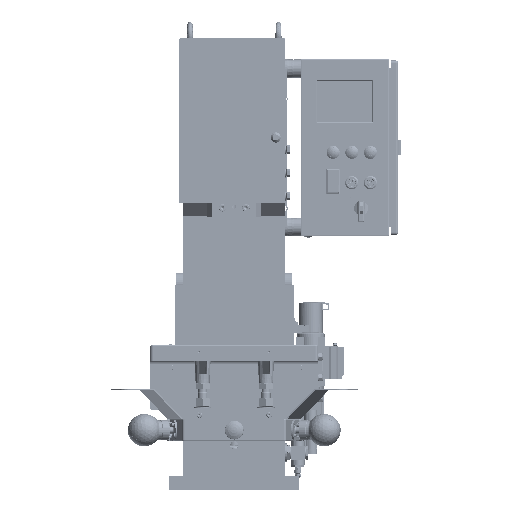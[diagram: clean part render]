
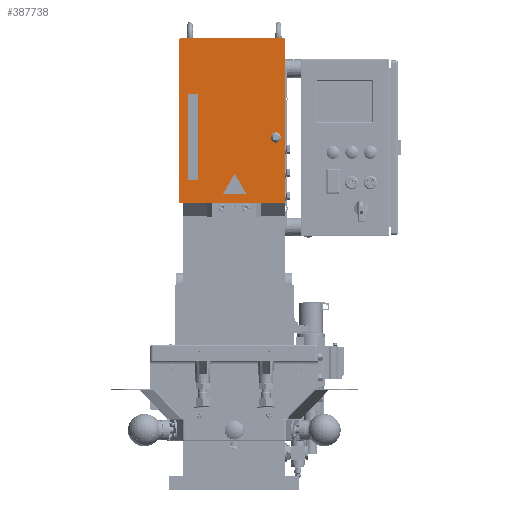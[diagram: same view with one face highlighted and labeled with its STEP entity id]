
A CAD part, front view. The second image highlights one B-rep face of the part: STEP entity #387738.
In plain terms, the highlighted planar face has unit normal (0, -1, 0).
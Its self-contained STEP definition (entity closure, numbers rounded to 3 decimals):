
#27736=FACE_BOUND('',#80938,.T.);
#27737=FACE_BOUND('',#80939,.T.);
#27738=FACE_BOUND('',#80940,.T.);
#42228=PLANE('',#407278);
#59863=FACE_OUTER_BOUND('',#80937,.T.);
#80937=EDGE_LOOP('',(#302165,#302166,#302167,#302168,#302169,#302170,#302171,
#302172));
#80938=EDGE_LOOP('',(#302173,#302174,#302175,#302176));
#80939=EDGE_LOOP('',(#302177,#302178,#302179,#302180,#302181,#302182));
#80940=EDGE_LOOP('',(#302183));
#97640=LINE('',#518862,#132199);
#98022=LINE('',#521600,#132581);
#98025=LINE('',#521605,#132584);
#99003=LINE('',#526745,#133562);
#99004=LINE('',#526747,#133563);
#99007=LINE('',#526760,#133566);
#99011=LINE('',#526772,#133570);
#99016=LINE('',#526784,#133575);
#107181=LINE('',#581148,#141740);
#107827=LINE('',#585347,#142386);
#107829=LINE('',#585356,#142388);
#132199=VECTOR('',#430446,10.);
#132581=VECTOR('',#431050,10.);
#132584=VECTOR('',#431055,10.);
#133562=VECTOR('',#432655,10.);
#133563=VECTOR('',#432658,10.);
#133566=VECTOR('',#432671,10.);
#133570=VECTOR('',#432683,10.);
#133575=VECTOR('',#432696,10.);
#141740=VECTOR('',#445883,10.);
#142386=VECTOR('',#448575,10.);
#142388=VECTOR('',#448585,10.);
#166656=CIRCLE('',#403297,4.);
#166659=CIRCLE('',#403301,4.);
#166661=CIRCLE('',#403731,1.);
#166663=CIRCLE('',#403735,1.);
#166665=CIRCLE('',#403739,1.);
#167070=CIRCLE('',#406826,11.);
#167266=CIRCLE('',#407277,4.);
#167267=CIRCLE('',#407279,4.);
#176815=VERTEX_POINT('',#518837);
#176816=VERTEX_POINT('',#518838);
#176819=VERTEX_POINT('',#518847);
#176820=VERTEX_POINT('',#518848);
#176824=VERTEX_POINT('',#518861);
#177244=VERTEX_POINT('',#521597);
#177245=VERTEX_POINT('',#521599);
#177246=VERTEX_POINT('',#521603);
#178149=VERTEX_POINT('',#526743);
#178152=VERTEX_POINT('',#526753);
#178153=VERTEX_POINT('',#526755);
#178154=VERTEX_POINT('',#526759);
#178157=VERTEX_POINT('',#526767);
#178158=VERTEX_POINT('',#526771);
#178161=VERTEX_POINT('',#526779);
#187232=VERTEX_POINT('',#583649);
#187655=VERTEX_POINT('',#585345);
#187657=VERTEX_POINT('',#585351);
#187658=VERTEX_POINT('',#585355);
#213965=EDGE_CURVE('',#176815,#176816,#166656,.T.);
#213970=EDGE_CURVE('',#176819,#176820,#166659,.T.);
#213977=EDGE_CURVE('',#176824,#176819,#97640,.T.);
#214605=EDGE_CURVE('',#177245,#177244,#98022,.T.);
#214608=EDGE_CURVE('',#177244,#177246,#98025,.T.);
#215965=EDGE_CURVE('',#177246,#178149,#99003,.T.);
#215966=EDGE_CURVE('',#178149,#177245,#99004,.T.);
#215969=EDGE_CURVE('',#178153,#178152,#166661,.T.);
#215971=EDGE_CURVE('',#178154,#178153,#99007,.T.);
#215975=EDGE_CURVE('',#178157,#178154,#166663,.T.);
#215977=EDGE_CURVE('',#178158,#178157,#99011,.T.);
#215981=EDGE_CURVE('',#178161,#178158,#166665,.T.);
#215984=EDGE_CURVE('',#178152,#178161,#99016,.T.);
#228805=EDGE_CURVE('',#176820,#176815,#107181,.T.);
#229534=EDGE_CURVE('',#187232,#187232,#167070,.T.);
#230189=EDGE_CURVE('',#176816,#187655,#107827,.T.);
#230192=EDGE_CURVE('',#187657,#187655,#167266,.T.);
#230193=EDGE_CURVE('',#187657,#187658,#107829,.T.);
#230194=EDGE_CURVE('',#176824,#187658,#167267,.T.);
#302165=ORIENTED_EDGE('',*,*,#213965,.T.);
#302166=ORIENTED_EDGE('',*,*,#230189,.T.);
#302167=ORIENTED_EDGE('',*,*,#230192,.F.);
#302168=ORIENTED_EDGE('',*,*,#230193,.T.);
#302169=ORIENTED_EDGE('',*,*,#230194,.F.);
#302170=ORIENTED_EDGE('',*,*,#213977,.T.);
#302171=ORIENTED_EDGE('',*,*,#213970,.T.);
#302172=ORIENTED_EDGE('',*,*,#228805,.T.);
#302173=ORIENTED_EDGE('',*,*,#214605,.T.);
#302174=ORIENTED_EDGE('',*,*,#214608,.T.);
#302175=ORIENTED_EDGE('',*,*,#215965,.T.);
#302176=ORIENTED_EDGE('',*,*,#215966,.T.);
#302177=ORIENTED_EDGE('',*,*,#215969,.T.);
#302178=ORIENTED_EDGE('',*,*,#215984,.T.);
#302179=ORIENTED_EDGE('',*,*,#215981,.T.);
#302180=ORIENTED_EDGE('',*,*,#215977,.T.);
#302181=ORIENTED_EDGE('',*,*,#215975,.T.);
#302182=ORIENTED_EDGE('',*,*,#215971,.T.);
#302183=ORIENTED_EDGE('',*,*,#229534,.T.);
#387738=ADVANCED_FACE('',(#59863,#27736,#27737,#27738),#42228,.T.);
#403297=AXIS2_PLACEMENT_3D('',#518839,#430424,#430425);
#403301=AXIS2_PLACEMENT_3D('',#518849,#430434,#430435);
#403731=AXIS2_PLACEMENT_3D('',#526756,#432666,#432667);
#403735=AXIS2_PLACEMENT_3D('',#526768,#432678,#432679);
#403739=AXIS2_PLACEMENT_3D('',#526780,#432690,#432691);
#406826=AXIS2_PLACEMENT_3D('',#583651,#447301,#447302);
#407277=AXIS2_PLACEMENT_3D('',#585353,#448581,#448582);
#407278=AXIS2_PLACEMENT_3D('',#585354,#448583,#448584);
#407279=AXIS2_PLACEMENT_3D('',#585357,#448586,#448587);
#430424=DIRECTION('center_axis',(0.,-1.,0.));
#430425=DIRECTION('ref_axis',(-1.,0.,0.));
#430434=DIRECTION('center_axis',(0.,-1.,0.));
#430435=DIRECTION('ref_axis',(-1.,0.,0.));
#430446=DIRECTION('',(1.,0.,0.));
#431050=DIRECTION('',(0.,0.,1.));
#431055=DIRECTION('',(1.,0.,0.));
#432655=DIRECTION('',(0.,0.,-1.));
#432658=DIRECTION('',(-1.,0.,0.));
#432666=DIRECTION('center_axis',(0.,1.,0.));
#432667=DIRECTION('ref_axis',(-0.866,0.,-0.5));
#432671=DIRECTION('',(-1.,0.,0.));
#432678=DIRECTION('center_axis',(0.,1.,0.));
#432679=DIRECTION('ref_axis',(0.866,0.,-0.5));
#432683=DIRECTION('',(0.5,0.,-0.866));
#432690=DIRECTION('center_axis',(0.,1.,0.));
#432691=DIRECTION('ref_axis',(0.,0.,
1.));
#432696=DIRECTION('',(0.5,0.,0.866));
#445883=DIRECTION('',(0.,0.,1.));
#447301=DIRECTION('center_axis',(0.,1.,0.));
#447302=DIRECTION('ref_axis',(-1.,0.,0.));
#448575=DIRECTION('',(-1.,0.,0.));
#448581=DIRECTION('center_axis',(0.,1.,0.));
#448582=DIRECTION('ref_axis',(-0.707,0.,0.707));
#448583=DIRECTION('center_axis',(0.,-1.,0.));
#448584=DIRECTION('ref_axis',(1.,0.,0.));
#448585=DIRECTION('',(0.,0.,-1.));
#448586=DIRECTION('center_axis',(0.,1.,0.));
#448587=DIRECTION('ref_axis',(-0.707,0.,-0.707));
#518837=CARTESIAN_POINT('',(110.,-549.5,966.));
#518838=CARTESIAN_POINT('',(106.,-549.5,970.));
#518839=CARTESIAN_POINT('Origin',(106.,-549.5,966.));
#518847=CARTESIAN_POINT('',(106.,-549.5,616.));
#518848=CARTESIAN_POINT('',(110.,-549.5,620.));
#518849=CARTESIAN_POINT('Origin',(106.,-549.5,620.));
#518861=CARTESIAN_POINT('',(-115.,-549.5,616.));
#518862=CARTESIAN_POINT('',(121.,-549.5,616.));
#521597=CARTESIAN_POINT('',(-99.,-549.5,851.));
#521599=CARTESIAN_POINT('',(-99.,-549.5,666.));
#521600=CARTESIAN_POINT('',(-99.,-549.5,729.5));
#521603=CARTESIAN_POINT('',(-78.,-549.5,851.));
#521605=CARTESIAN_POINT('',(-49.,-549.5,851.));
#526743=CARTESIAN_POINT('',(-78.,-549.5,666.));
#526745=CARTESIAN_POINT('',(-78.,-549.5,822.));
#526747=CARTESIAN_POINT('',(-38.5,-549.5,666.));
#526753=CARTESIAN_POINT('',(-23.134,-549.5,637.5));
#526755=CARTESIAN_POINT('',(-22.268,-549.5,636.));
#526756=CARTESIAN_POINT('Origin',(-22.268,-549.5,637.));
#526759=CARTESIAN_POINT('',(24.268,-549.5,636.));
#526760=CARTESIAN_POINT('',(-11.5,-549.5,636.));
#526767=CARTESIAN_POINT('',(25.134,-549.5,637.5));
#526768=CARTESIAN_POINT('Origin',(24.268,-549.5,637.));
#526771=CARTESIAN_POINT('',(1.866,-549.5,677.801));
#526772=CARTESIAN_POINT('',(-11.116,-549.5,700.288));
#526779=CARTESIAN_POINT('',(0.134,-549.5,677.801));
#526780=CARTESIAN_POINT('Origin',(1.,-549.5,677.301));
#526784=CARTESIAN_POINT('',(25.616,-549.5,721.938));
#581148=CARTESIAN_POINT('',(110.,-549.5,706.5));
#583649=CARTESIAN_POINT('',(100.,-549.5,757.));
#583651=CARTESIAN_POINT('Origin',(89.,-549.5,757.));
#585345=CARTESIAN_POINT('',(-115.,-549.5,970.));
#585347=CARTESIAN_POINT('',(-119.,-549.5,970.));
#585351=CARTESIAN_POINT('',(-119.,-549.5,966.));
#585353=CARTESIAN_POINT('Origin',(-115.,-549.5,966.));
#585354=CARTESIAN_POINT('Origin',(1.,-549.5,793.));
#585355=CARTESIAN_POINT('',(-119.,-549.5,620.));
#585356=CARTESIAN_POINT('',(-119.,-549.5,616.));
#585357=CARTESIAN_POINT('Origin',(-115.,-549.5,620.));
